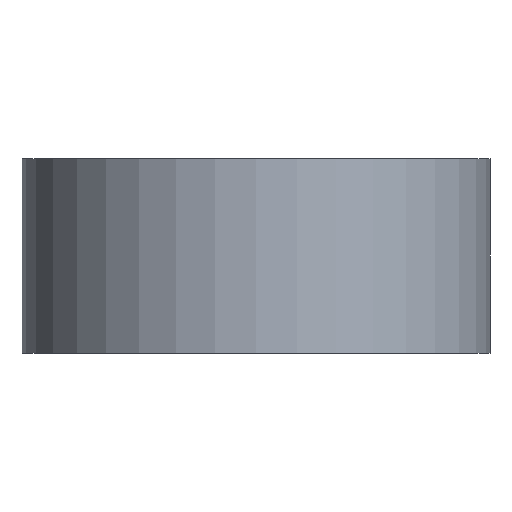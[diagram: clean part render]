
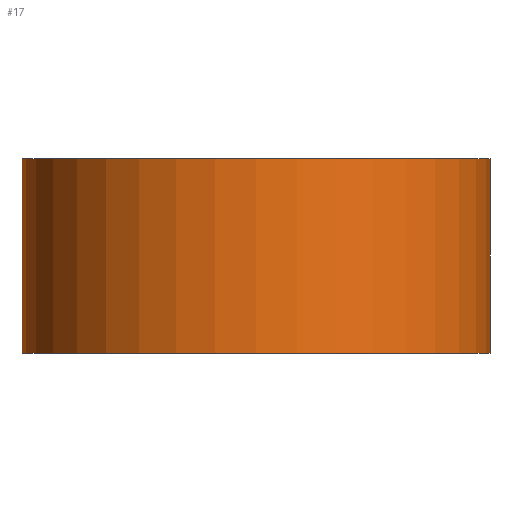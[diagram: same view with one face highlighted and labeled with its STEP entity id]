
A CAD part, front view. The second image highlights one B-rep face of the part: STEP entity #17.
In plain terms, the highlighted cylindrical face has radius 8.2 mm (diameter 16.4 mm), a full revolution.
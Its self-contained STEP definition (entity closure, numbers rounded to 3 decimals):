
#17 = ADVANCED_FACE('',(#18),#31,.T.);
#18 = FACE_BOUND('',#19,.T.);
#19 = EDGE_LOOP('',(#20,#54,#77,#104));
#20 = ORIENTED_EDGE('',*,*,#21,.F.);
#21 = EDGE_CURVE('',#22,#22,#24,.T.);
#22 = VERTEX_POINT('',#23);
#23 = CARTESIAN_POINT('',(8.2,0.,8.));
#24 = SURFACE_CURVE('',#25,(#30,#42),.PCURVE_S1.);
#25 = CIRCLE('',#26,8.2);
#26 = AXIS2_PLACEMENT_3D('',#27,#28,#29);
#27 = CARTESIAN_POINT('',(0.,0.,8.));
#28 = DIRECTION('',(0.,0.,1.));
#29 = DIRECTION('',(1.,0.,-0.));
#30 = PCURVE('',#31,#36);
#31 = CYLINDRICAL_SURFACE('',#32,8.2);
#32 = AXIS2_PLACEMENT_3D('',#33,#34,#35);
#33 = CARTESIAN_POINT('',(0.,0.,1.2));
#34 = DIRECTION('',(0.,0.,1.));
#35 = DIRECTION('',(1.,0.,-0.));
#36 = DEFINITIONAL_REPRESENTATION('',(#37),#41);
#37 = LINE('',#38,#39);
#38 = CARTESIAN_POINT('',(0.,6.8));
#39 = VECTOR('',#40,1.);
#40 = DIRECTION('',(1.,0.));
#41 = ( GEOMETRIC_REPRESENTATION_CONTEXT(2) 
PARAMETRIC_REPRESENTATION_CONTEXT() REPRESENTATION_CONTEXT('2D SPACE',''
  ) );
#42 = PCURVE('',#43,#48);
#43 = PLANE('',#44);
#44 = AXIS2_PLACEMENT_3D('',#45,#46,#47);
#45 = CARTESIAN_POINT('',(0.,0.,8.));
#46 = DIRECTION('',(0.,0.,1.));
#47 = DIRECTION('',(1.,0.,-0.));
#48 = DEFINITIONAL_REPRESENTATION('',(#49),#53);
#49 = CIRCLE('',#50,8.2);
#50 = AXIS2_PLACEMENT_2D('',#51,#52);
#51 = CARTESIAN_POINT('',(0.,0.));
#52 = DIRECTION('',(1.,0.));
#53 = ( GEOMETRIC_REPRESENTATION_CONTEXT(2) 
PARAMETRIC_REPRESENTATION_CONTEXT() REPRESENTATION_CONTEXT('2D SPACE',''
  ) );
#54 = ORIENTED_EDGE('',*,*,#55,.F.);
#55 = EDGE_CURVE('',#56,#22,#58,.T.);
#56 = VERTEX_POINT('',#57);
#57 = CARTESIAN_POINT('',(8.2,0.,1.2));
#58 = SEAM_CURVE('',#59,(#63,#70),.PCURVE_S1.);
#59 = LINE('',#60,#61);
#60 = CARTESIAN_POINT('',(8.2,0.,1.2));
#61 = VECTOR('',#62,1.);
#62 = DIRECTION('',(0.,0.,1.));
#63 = PCURVE('',#31,#64);
#64 = DEFINITIONAL_REPRESENTATION('',(#65),#69);
#65 = LINE('',#66,#67);
#66 = CARTESIAN_POINT('',(6.283,-0.));
#67 = VECTOR('',#68,1.);
#68 = DIRECTION('',(0.,1.));
#69 = ( GEOMETRIC_REPRESENTATION_CONTEXT(2) 
PARAMETRIC_REPRESENTATION_CONTEXT() REPRESENTATION_CONTEXT('2D SPACE',''
  ) );
#70 = PCURVE('',#31,#71);
#71 = DEFINITIONAL_REPRESENTATION('',(#72),#76);
#72 = LINE('',#73,#74);
#73 = CARTESIAN_POINT('',(0.,-0.));
#74 = VECTOR('',#75,1.);
#75 = DIRECTION('',(0.,1.));
#76 = ( GEOMETRIC_REPRESENTATION_CONTEXT(2) 
PARAMETRIC_REPRESENTATION_CONTEXT() REPRESENTATION_CONTEXT('2D SPACE',''
  ) );
#77 = ORIENTED_EDGE('',*,*,#78,.T.);
#78 = EDGE_CURVE('',#56,#56,#79,.T.);
#79 = SURFACE_CURVE('',#80,(#85,#92),.PCURVE_S1.);
#80 = CIRCLE('',#81,8.2);
#81 = AXIS2_PLACEMENT_3D('',#82,#83,#84);
#82 = CARTESIAN_POINT('',(0.,0.,1.2));
#83 = DIRECTION('',(0.,0.,1.));
#84 = DIRECTION('',(1.,0.,-0.));
#85 = PCURVE('',#31,#86);
#86 = DEFINITIONAL_REPRESENTATION('',(#87),#91);
#87 = LINE('',#88,#89);
#88 = CARTESIAN_POINT('',(0.,0.));
#89 = VECTOR('',#90,1.);
#90 = DIRECTION('',(1.,0.));
#91 = ( GEOMETRIC_REPRESENTATION_CONTEXT(2) 
PARAMETRIC_REPRESENTATION_CONTEXT() REPRESENTATION_CONTEXT('2D SPACE',''
  ) );
#92 = PCURVE('',#93,#98);
#93 = PLANE('',#94);
#94 = AXIS2_PLACEMENT_3D('',#95,#96,#97);
#95 = CARTESIAN_POINT('',(0.,0.,1.2));
#96 = DIRECTION('',(0.,0.,1.));
#97 = DIRECTION('',(1.,0.,-0.));
#98 = DEFINITIONAL_REPRESENTATION('',(#99),#103);
#99 = CIRCLE('',#100,8.2);
#100 = AXIS2_PLACEMENT_2D('',#101,#102);
#101 = CARTESIAN_POINT('',(0.,0.));
#102 = DIRECTION('',(1.,0.));
#103 = ( GEOMETRIC_REPRESENTATION_CONTEXT(2) 
PARAMETRIC_REPRESENTATION_CONTEXT() REPRESENTATION_CONTEXT('2D SPACE',''
  ) );
#104 = ORIENTED_EDGE('',*,*,#55,.T.);
